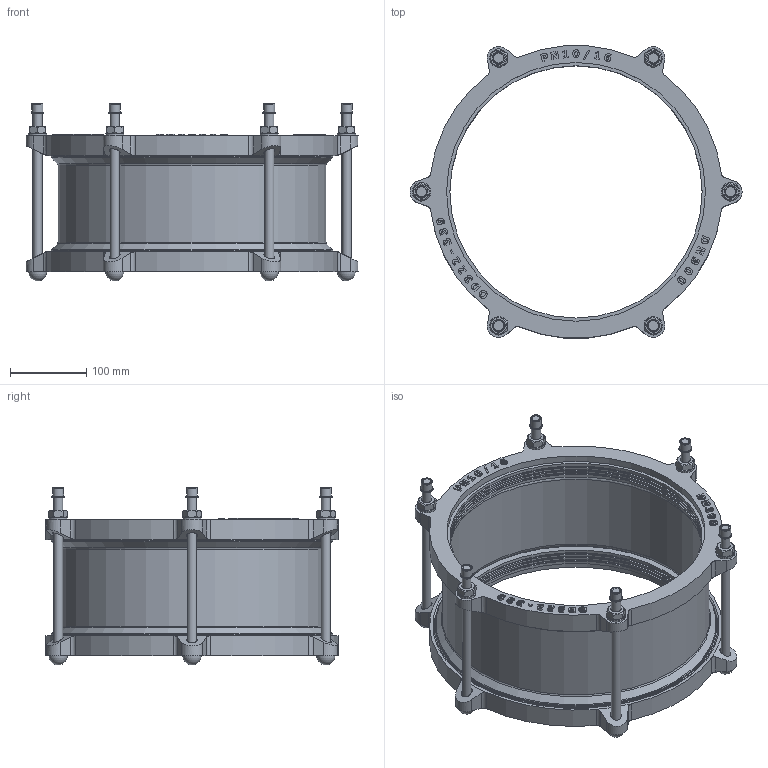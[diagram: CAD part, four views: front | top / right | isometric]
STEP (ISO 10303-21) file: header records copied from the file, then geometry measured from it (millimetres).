
FILE_DESCRIPTION(('STEP AP203'), '1');
FILE_NAME('Cîåäèíèòåëüíàÿ ìóôòà äëÿ æåñòêèõ òðóá', '', ('UNSPECIFIED'), ('UNSPECIFIED'), 'C3D Converter', 'C3D Toolkit', '');
FILE_SCHEMA(('CONFIG_CONTROL_DESIGN'));
Length unit declared in the file: millimetre
Assembly tree (29 placements, depth 2):
  (unnamed)
    (unnamed)
    (unnamed)  x6
    (unnamed)  x6
    (unnamed)  x6
    (unnamed)  x6
    (unnamed)
    (unnamed)
    (unnamed)  x2
Bounding box: 435 x 382.78 x 233.2 mm (x, y, z)
Volume: 2710471.4 mm3; surface area: 862910.5 mm2
Topology: 33 solids, 33 shells, 969 faces, 2457 edges, 1614 vertices
Faces by surface type: extrusion 426, plane 326, cylinder 139, cone 48, torus 24, sphere 6
Full cylindrical faces by diameter (mm): 12 x18, 13 x6, 14 x12, 14.4 x6, 16.8 x6, 21.172 x1, 24 x6, 330.5 x8, 334.75 x6, 339 x3, 345 x2, 351 x3, 369 x2, 372 x4
Entity records: 38386 total; most frequent: CARTESIAN_POINT 14450, ORIENTED_EDGE 4150, DIRECTION 2531, EDGE_CURVE 2075, VERTEX_POINT 1412, B_SPLINE_CURVE_WITH_KNOTS 1364, VECTOR 1341, EDGE_LOOP 957
